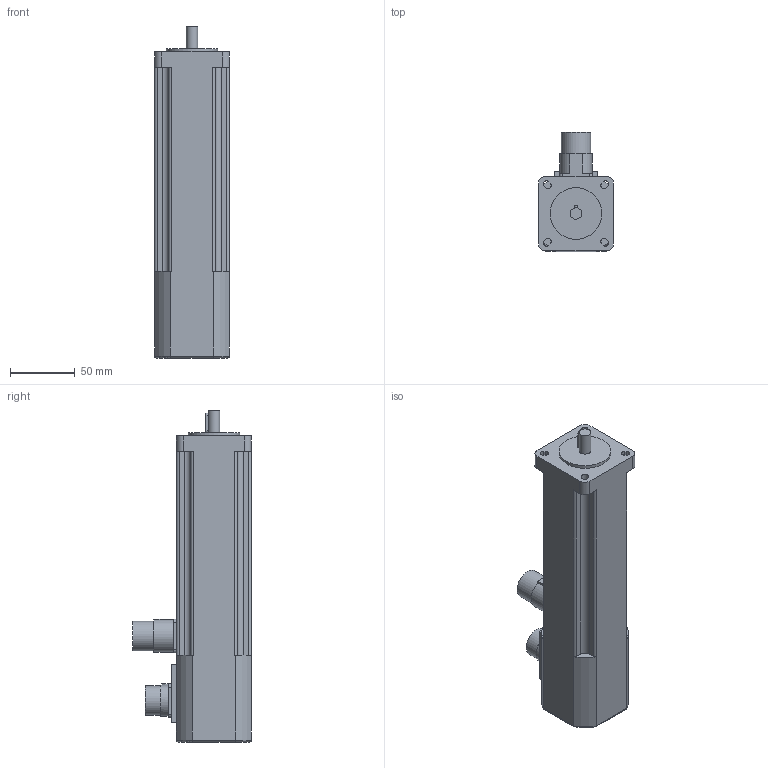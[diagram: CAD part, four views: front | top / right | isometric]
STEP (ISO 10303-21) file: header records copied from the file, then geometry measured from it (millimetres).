
FILE_DESCRIPTION(/* description */ (''),/* implementation_level */ '2;1');
FILE_NAME(/* name */ '\\Lafnas01\disegni\Archivi Lafert\3D\CAD 3D\MODELLI\Assiemi clienti\Serad\Modelli 3D Serad\B28I\Encoder\Enc With Brake\B2801Ixx4BRx0033.ipt.stp',/* time_stamp */ '2015-09-07T10:47:52+02:00',/* author */ ('Pastrello Ylenia'),/* organization */ (''),/* preprocessor_version */ 'ST-DEVELOPER v15.6',/* originating_system */ 'Autodesk Inventor 2015',/* authorisation */ '');
FILE_SCHEMA (('AUTOMOTIVE_DESIGN { 1 0 10303 214 3 1 1 }'));
Length unit declared in the file: millimetre
Products named in the file (1): B2801Ixx4BRx0033
Bounding box: 58 x 92 x 257 mm (x, y, z)
Volume: 739138.8 mm3; surface area: 64487.1 mm2
Topology: 1 solids, 1 shells, 138 faces, 368 edges, 239 vertices
Faces by surface type: plane 76, cylinder 58, torus 4
Full cylindrical faces by diameter (mm): 9 x1, 22.7 x2, 24 x1, 40 x1
Entity records: 4389 total; most frequent: CARTESIAN_POINT 872, DIRECTION 741, ORIENTED_EDGE 720, EDGE_CURVE 359, AXIS2_PLACEMENT_3D 255, VERTEX_POINT 236, LINE 231, VECTOR 231
